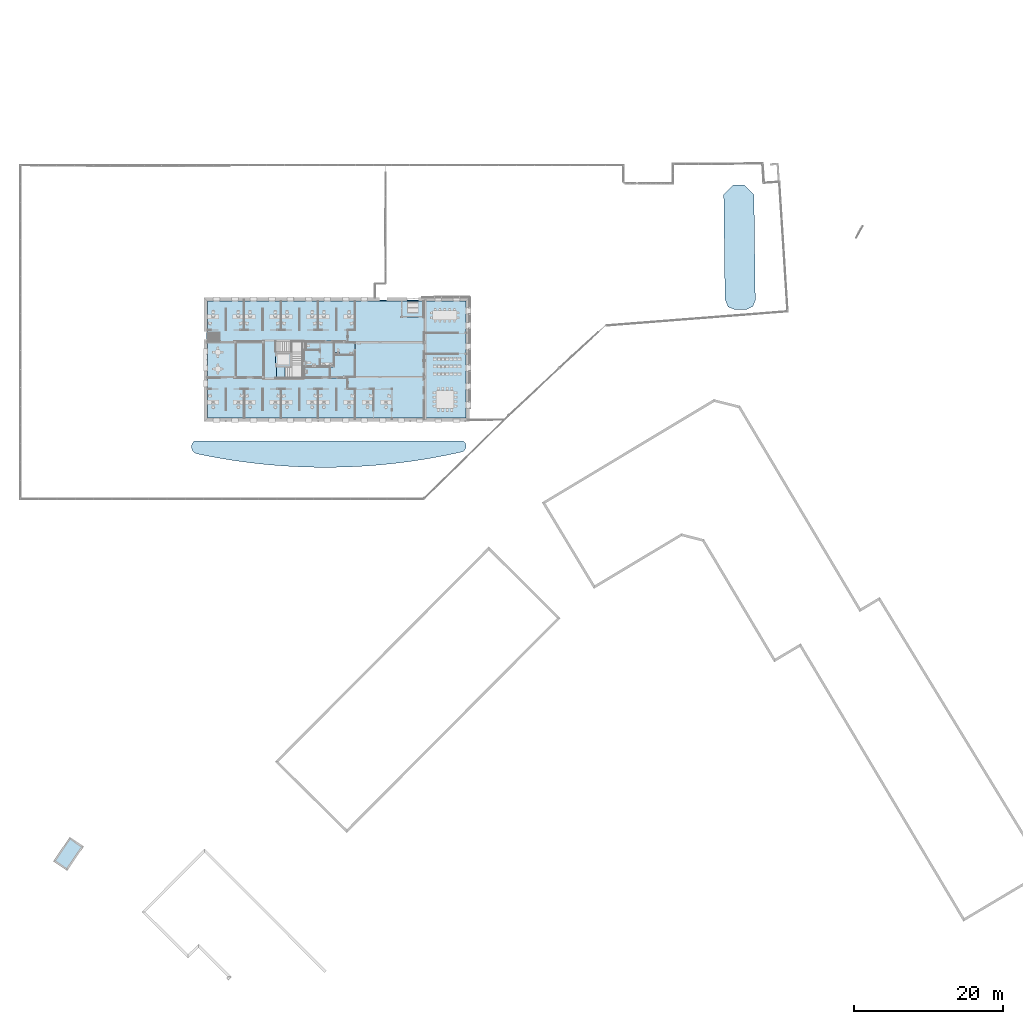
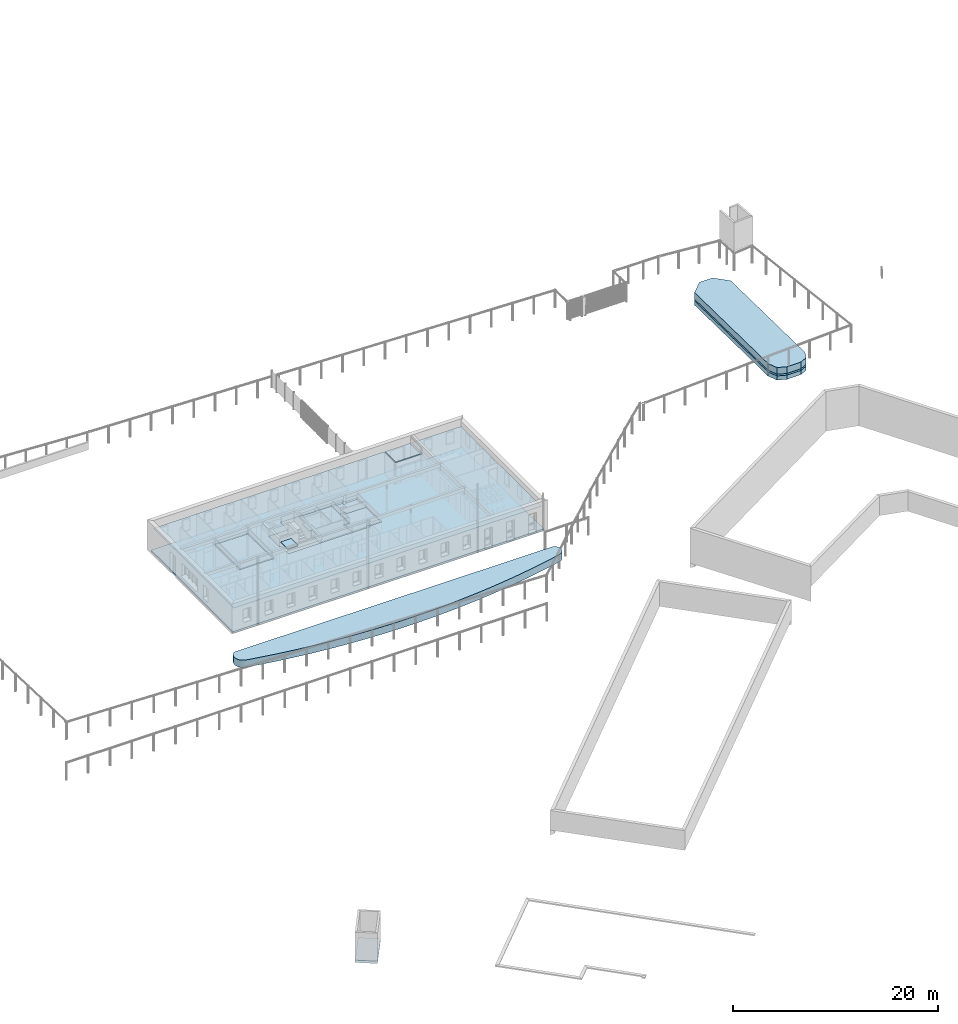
# One storey, part 10 of 91: 12 slabs.
"""IFC2X3 building model written with IfcOpenShell, lengths in metres."""

from ifc_helpers import new_model, entity, si_unit, converted_unit, derived_unit, money_unit, point, direction, frame, frame_2d, origin_with_axes, place, context, subcontext, project, spatial, polyline, circle_curve, parameter, trimmed, segment, composite_curve, outline, extrude, material, layer, layer_set, layer_usage, type_object, element, save


model = new_model("IFC2X3")

# Units and contexts
model_context = context("Model", 3, precision=1e-05, world=origin_with_axes(), true_north=direction((0.0, 1.0)))
body_context = subcontext(model_context, "Body", "Model", "MODEL_VIEW")
ifc_project = project(units=[si_unit("LENGTHUNIT", "METRE"), si_unit("AREAUNIT", "SQUARE_METRE"), si_unit("VOLUMEUNIT", "CUBIC_METRE"), converted_unit("PLANEANGLEUNIT", "DEGREE", entity("IfcPlaneAngleMeasure", 0.0174532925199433), si_unit("PLANEANGLEUNIT", "RADIAN"), dimensions=[0, 0, 0, 0, 0, 0, 0]), money_unit("EUR"), converted_unit("TIMEUNIT", "Year", entity("IfcTimeMeasure", 31557600.0), si_unit("TIMEUNIT", "SECOND"), dimensions=[0, 0, 1, 0, 0, 0, 0]), si_unit("MASSUNIT", "GRAM", prefix="KILO"), si_unit("THERMODYNAMICTEMPERATUREUNIT", "DEGREE_CELSIUS"), si_unit("LUMINOUSINTENSITYUNIT", "LUMEN"), si_unit("ENERGYUNIT", "JOULE", prefix="MEGA"), derived_unit("THERMALCONDUCTANCEUNIT", [(si_unit("POWERUNIT", "WATT"), 1), (si_unit("LENGTHUNIT", "METRE"), -1), (si_unit("THERMODYNAMICTEMPERATUREUNIT", "KELVIN"), -1)]), derived_unit("SPECIFICHEATCAPACITYUNIT", [(si_unit("ENERGYUNIT", "JOULE"), 1), (si_unit("MASSUNIT", "GRAM", prefix="KILO"), -1), (si_unit("THERMODYNAMICTEMPERATUREUNIT", "KELVIN"), -1)]), derived_unit("MASSDENSITYUNIT", [(si_unit("MASSUNIT", "GRAM", prefix="KILO"), 1), (si_unit("VOLUMEUNIT", "CUBIC_METRE"), -1)])], contexts=[model_context])

# Site, building, storey
site_placement = place(None, origin_with_axes())
site = spatial("IfcSite", under=ifc_project, at=site_placement, Name="Site", CompositionType="ELEMENT")
building_placement = place(site_placement, origin_with_axes())
building = spatial("IfcBuilding", under=site, at=building_placement, Name="Bâtiment", CompositionType="ELEMENT")
storey_placement = place(building_placement, origin_with_axes())
storey = spatial("IfcBuildingStorey", under=building, at=storey_placement, Name="RDC", CompositionType="ELEMENT", Elevation=0.0)

# Slabs
ifc_material_1 = material(Name="*FINITION SOL INT - sol souple")
ifc_layer_1 = layer(ifc_material_1, 0.02, ventilated="UNKNOWN")
ifc_material_2 = material(Name="*CHAPE")
ifc_layer_2 = layer(ifc_material_2, 0.07, ventilated="UNKNOWN")
ifc_material_3 = material(Name="*GENERIQUE - MAÇONNERIE")
ifc_layer_3 = layer(ifc_material_3, 0.2, ventilated="UNKNOWN")
ifc_layer_set_1 = layer_set([ifc_layer_1, ifc_layer_2, ifc_layer_3], Name="*Plancher béton+CHAPE+FINITION")
ifc_layer_usage_1 = layer_usage(ifc_layer_set_1, "AXIS3", "NEGATIVE", 0.29)
slab_type_1 = type_object("IfcSlabType", Name="*Plancher béton+CHAPE+FINITION  290", PredefinedType="FLOOR")
slab_1_placement = place(storey_placement, frame((6.584287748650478, -83.29723184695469, 4.0), z_axis=(0.0, 0.0, 1.0), x_axis=(1.0, 0.0, 0.0)))
element("IfcSlab", 1, at=slab_1_placement, inside=storey, type_object=slab_type_1, material=ifc_layer_usage_1, Name="DC_BA_Isol-004", PredefinedType="FLOOR", context=body_context, shape_type="SweptSolid", body=[
    extrude(outline(polyline([(0.0, 0.0), (-2.172516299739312, -3.200480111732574), (-0.3764334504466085, -4.445705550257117), (1.815676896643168, -1.241216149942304), (0.0, 0.0)])), frame((0.0, 0.0, -0.29), z_axis=(0.0, 0.0, 1.0), x_axis=(1.0, 0.0, 0.0)), (0.0, 0.0, 1.0), 0.29),
])
ifc_material_4 = material(Name="Eau")
ifc_layer_4 = layer(ifc_material_4, 0.2, ventilated="UNKNOWN")
ifc_layer_set_2 = layer_set([ifc_layer_4], Name="Eau 0.2")
ifc_layer_usage_2 = layer_usage(ifc_layer_set_2, "AXIS3", "NEGATIVE", 0.2)
slab_type_2 = type_object("IfcSlabType", Name="Eau 200", PredefinedType="FLOOR")
slab_2_placement = place(storey_placement, frame((94.43067526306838, 3.07974796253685, -3.0), z_axis=(0.0, 0.0, 1.0), x_axis=(1.0, 0.0, 0.0)))
element("IfcSlab", 2, at=slab_2_placement, inside=storey, type_object=slab_type_2, material=ifc_layer_usage_2, Name="Bassin rétention EP", PredefinedType="FLOOR", context=body_context, shape_type="SweptSolid", body=[
    extrude(outline(polyline([(0.0, 0.0), (0.1755316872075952, -14.08551363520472), (0.5900653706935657, -15.09830337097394), (1.512425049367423, -15.46710076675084), (2.31357609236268, -15.45450086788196), (3.113564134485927, -15.44191925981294), (3.907597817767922, -15.05073613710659), (4.250941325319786, -14.19407753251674), (4.06843709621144, -0.03220970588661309), (2.750865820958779, 1.29715435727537), (1.268939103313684, 1.274966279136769), (0.0, 0.0)])), frame((0.0, 0.0, -0.2), z_axis=(0.0, 0.0, 1.0), x_axis=(1.0, 0.0, 0.0)), (0.0, 0.0, 1.0), 0.2),
])
ifc_layer_5 = layer(ifc_material_4, 0.8700000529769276, ventilated="UNKNOWN")
ifc_layer_set_3 = layer_set([ifc_layer_5], Name="Eau 0.87")
ifc_layer_usage_3 = layer_usage(ifc_layer_set_3, "AXIS3", "NEGATIVE", 0.8700000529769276)
slab_type_3 = type_object("IfcSlabType", Name="Eau 870", PredefinedType="FLOOR")
slab_3_placement = place(storey_placement, frame((23.36706628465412, -30.01659920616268, -0.1299999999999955), z_axis=(0.0, 0.0, 1.0), x_axis=(1.0, 0.0, 0.0)))
element("IfcSlab", 3, at=slab_3_placement, inside=storey, type_object=slab_type_3, material=ifc_layer_usage_3, Name="Bassin rétention EP", PredefinedType="FLOOR", context=body_context, shape_type="SweptSolid", body=[
    extrude(outline(composite_curve([segment(trimmed(circle_curve(frame_2d((0.5444571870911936, -0.8059936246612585), x_axis=(-0.5597634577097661, 0.8286524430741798)), 0.972655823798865), [point((0.0, 0.0)), parameter(0.0)], [point((0.3330603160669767, -1.755399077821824)), parameter(133.4077216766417)], True, "CARTESIAN"), True, "CONTINUOUS"), segment(trimmed(circle_curve(frame_2d((17.52057260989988, 78.7059416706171), x_axis=(-0.2088991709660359, -0.9779371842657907)), 82.27659408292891), [point((0.3330603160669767, -1.755399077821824)), parameter(0.0)], [point((35.935300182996, -1.483432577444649)), parameter(24.99104839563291)], True, "CARTESIAN"), True, "CONTINUOUS"), segment(trimmed(circle_curve(frame_2d((35.63064256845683, -0.7217020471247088), x_axis=(0.3713543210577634, -0.9284912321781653)), 0.8203960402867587), [point((35.935300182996, -1.483432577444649)), parameter(0.0)], [point((36.05017150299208, -0.01668776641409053)), parameter(127.4454613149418)], True, "CARTESIAN"), True, "CONTINUOUS"), segment(polyline([(36.05017150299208, -0.01668776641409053), (0.0, 0.0)]), True, "CONTINUOUS")], self_intersect=False)), frame((0.0, 0.0, -0.8700000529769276), z_axis=(0.0, 0.0, 1.0), x_axis=(1.0, 0.0, 0.0)), (0.0, 0.0, 1.0), 0.8700000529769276),
])
ifc_material_5 = material(Name="*OSSATURE PLACO")
ifc_layer_6 = layer(ifc_material_5, 0.048, ventilated="UNKNOWN")
ifc_material_6 = material(Name="*PLAQUE DE PLATRE - PLAFOND")
ifc_layer_7 = layer(ifc_material_6, 0.013, ventilated="UNKNOWN")
ifc_layer_set_4 = layer_set([ifc_layer_6, ifc_layer_7], Name="*Plafond 1/2 STIL")
ifc_layer_usage_4 = layer_usage(ifc_layer_set_4, "AXIS3", "NEGATIVE", 0.061)
slab_type_4 = type_object("IfcSlabType", Name="*Plafond 1/2 STIL 61", PredefinedType="FLOOR")
slab_4_placement = place(storey_placement, frame((51.22542091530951, -11.25756213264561, 2.6), z_axis=(0.0, 0.0, 1.0), x_axis=(1.0, 0.0, 0.0)))
element("IfcSlab", 4, at=slab_4_placement, inside=storey, type_object=slab_type_4, material=ifc_layer_usage_4, Name="Plafond métallique acoustique perforé", PredefinedType="FLOOR", context=body_context, shape_type="SweptSolid", body=[
    extrude(outline(polyline([(0.0, 0.0), (0.0, -2.062999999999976), (2.801579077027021, -2.062999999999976), (2.801579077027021, 0.0), (0.0, 0.0)])), origin_with_axes(), (0.0, 0.0, 1.0), 0.061),
])
ifc_layer_usage_5 = layer_usage(ifc_layer_set_4, "AXIS3", "NEGATIVE", 0.061)
slab_5_placement = place(storey_placement, frame((38.32200801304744, -20.1286705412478, 2.6), z_axis=(0.0, 0.0, 1.0), x_axis=(1.0, 0.0, 0.0)))
element("IfcSlab", 5, at=slab_5_placement, inside=storey, type_object=slab_type_4, material=ifc_layer_usage_5, Name="Plafond acoustique démontable", PredefinedType="FLOOR", context=body_context, shape_type="SweptSolid", body=[
    extrude(outline(polyline([(0.0, 0.0), (-0.4090000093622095, 0.0), (-0.4090000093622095, -1.368859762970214), (3.160999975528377, -1.368859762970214), (3.160999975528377, 0.0999995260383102), (3.741000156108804, 0.0999995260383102), (3.741000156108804, 3.437105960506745), (0.0, 3.437105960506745), (0.0, 2.263108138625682), (-0.2740000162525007, 2.263108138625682), (-0.2740000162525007, 0.8431081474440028), (0.0, 0.8431081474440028), (0.0, 0.0)])), origin_with_axes(), (0.0, 0.0, 1.0), 0.061),
])
ifc_layer_usage_6 = layer_usage(ifc_layer_set_4, "AXIS3", "NEGATIVE", 0.061)
slab_6_placement = place(storey_placement, frame((34.33299999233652, -21.52356192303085, 3.120000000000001), z_axis=(0.0, 0.0, 1.0), x_axis=(1.0, 0.0, 0.0)))
element("IfcSlab", 6, at=slab_6_placement, inside=storey, type_object=slab_type_4, material=ifc_layer_usage_6, Name="Plafond acoustique démontable 1ère volée escalier", PredefinedType="FLOOR", context=body_context, shape_type="SweptSolid", body=[
    extrude(outline(polyline([(0.0, 0.0), (1.154007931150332, 0.0), (1.154007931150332, 1.395997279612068), (0.0, 1.395997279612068), (0.0, 0.0)])), origin_with_axes(), (0.0, 0.0, 1.0), 0.061),
])
ifc_layer_usage_7 = layer_usage(ifc_layer_set_4, "AXIS3", "NEGATIVE", 0.061)
slab_7_placement = place(storey_placement, frame((42.14300816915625, -16.69156729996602, 2.5), z_axis=(0.0, 0.0, 1.0), x_axis=(1.0, 0.0, 0.0)))
element("IfcSlab", 7, at=slab_7_placement, inside=storey, type_object=slab_type_4, material=ifc_layer_usage_7, Name="Plafond acoustique démontable WC public RDC", PredefinedType="FLOOR", context=body_context, shape_type="SweptSolid", body=[
    extrude(outline(polyline([(0.0, 0.0), (0.0, -1.477997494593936), (0.6665318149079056, -1.477997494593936), (0.6665318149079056, -1.751997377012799), (2.725991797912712, -1.751997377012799), (2.725991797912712, -0.1300000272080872), (1.40199178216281, -0.1300000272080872), (1.40199178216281, -0.1909972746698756), (1.151991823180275, -0.1909972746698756), (1.151991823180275, 0.0), (0.4565316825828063, 0.0), (0.0, 0.0)])), origin_with_axes(), (0.0, 0.0, 1.0), 0.061),
])
ifc_layer_usage_8 = layer_usage(ifc_layer_set_4, "AXIS3", "NEGATIVE", 0.061)
slab_8_placement = place(storey_placement, frame((25.09999999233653, -26.95756215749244, 2.6), z_axis=(0.0, 0.0, 1.0), x_axis=(1.0, 0.0, 0.0)))
element("IfcSlab", 8, at=slab_8_placement, inside=storey, type_object=slab_type_4, material=ifc_layer_usage_8, Name="Plafond acoustique démontable", PredefinedType="FLOOR", context=body_context, shape_type="SweptSolid", body=[
    extrude(outline(polyline([(0.0, 0.0), (34.70000000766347, 0.0), (34.70000000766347, 15.70000002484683), (29.087, 15.70000002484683), (29.087, 13.55700002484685), (26.04542092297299, 13.55700002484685), (26.04542092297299, 15.70000002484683), (0.0, 15.70000002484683), (0.0, 0.0)]), holes=[polyline([(3.750383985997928, 5.360000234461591), (3.750383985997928, 10.33999979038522), (3.850384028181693, 10.33999979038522), (7.51900801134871, 10.33999979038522), (7.593008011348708, 10.33999979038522), (7.593008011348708, 7.320000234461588), (7.593008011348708, 7.220000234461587), (7.593008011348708, 5.360014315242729), (7.593008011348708, 5.360000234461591), (3.850384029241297, 5.360000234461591), (3.750383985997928, 5.360000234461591)]), polyline([(9.23299999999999, 5.360000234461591), (9.23299999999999, 6.829997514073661), (9.093008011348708, 6.829997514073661), (9.093008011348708, 6.832997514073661), (9.093008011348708, 8.870000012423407), (11.23900801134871, 8.870000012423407), (11.23900801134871, 10.33999758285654), (13.0670080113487, 10.33999758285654), (16.85300795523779, 10.33999979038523), (18.45999728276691, 10.33999979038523), (18.45999728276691, 10.20999979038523), (19.843, 10.20999979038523), (19.843, 5.49000023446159), (18.47009866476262, 5.49000023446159), (18.47009866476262, 5.360000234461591), (13.0670080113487, 5.360000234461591), (9.23299999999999, 5.360000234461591)])]), origin_with_axes(), (0.0, 0.0, 1.0), 0.061),
])
ifc_layer_usage_9 = layer_usage(ifc_layer_set_4, "AXIS3", "NEGATIVE", 0.061)
slab_9_placement = place(storey_placement, frame((28.95038403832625, -16.69156236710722, 2.6), z_axis=(0.0, 0.0, 1.0), x_axis=(1.0, 0.0, 0.0)))
element("IfcSlab", 9, at=slab_9_placement, inside=storey, type_object=slab_type_4, material=ifc_layer_usage_9, Name="Plafond acoustique démontable", PredefinedType="FLOOR", context=body_context, shape_type="SweptSolid", body=[
    extrude(outline(polyline([(0.0, 0.0), (-6.881710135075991e-08, -4.805999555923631), (3.642623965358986, -4.805999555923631), (3.642623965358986, 0.0), (0.0, 0.0)])), origin_with_axes(), (0.0, 0.0, 1.0), 0.061),
])
ifc_layer_usage_10 = layer_usage(ifc_layer_set_4, "AXIS3", "NEGATIVE", 0.061)
slab_10_placement = place(storey_placement, frame((41.58700817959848, -20.114717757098, 2.6), z_axis=(0.0, 0.0, 1.0), x_axis=(1.0, 0.0, 0.0)))
element("IfcSlab", 10, at=slab_10_placement, inside=storey, type_object=slab_type_4, material=ifc_layer_usage_10, Name="Plafond acoustique démontable", PredefinedType="FLOOR", context=body_context, shape_type="SweptSolid", body=[
    extrude(outline(polyline([(0.0, 0.0), (0.0, -1.377777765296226), (1.707991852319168, -1.377777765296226), (1.707991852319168, -1.217846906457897), (1.957991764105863, -1.217846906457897), (1.957991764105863, -1.252844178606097), (3.281991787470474, -1.252844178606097), (3.281991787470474, 1.571158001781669), (0.5500014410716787, 1.571158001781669), (0.549999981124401, 0.01204672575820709), (0.0, 0.0)])), origin_with_axes(), (0.0, 0.0, 1.0), 0.061),
])
ifc_layer_8 = layer(ifc_material_1, 0.02, ventilated="UNKNOWN")
ifc_layer_9 = layer(ifc_material_3, 0.05, ventilated="UNKNOWN")
ifc_material_7 = material(Name="*GENERIQUE - ISOLATION PLANCHER")
ifc_layer_10 = layer(ifc_material_7, 0.15, ventilated="UNKNOWN")
ifc_layer_set_5 = layer_set([ifc_layer_8, ifc_layer_9, ifc_layer_10], Name="*Dalle portée hourdi isolé + finition")
ifc_layer_usage_11 = layer_usage(ifc_layer_set_5, "AXIS3", "NEGATIVE", 0.22)
slab_type_5 = type_object("IfcSlabType", Name="*Dalle portée hourdi isolé + finition 220", PredefinedType="FLOOR")
slab_11_placement = place(storey_placement, frame((59.97800023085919, -27.13556251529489, 0.0), z_axis=(0.0, 0.0, 1.0), x_axis=(1.0, 0.0, 0.0)))
element("IfcSlab", 11, at=slab_11_placement, inside=storey, type_object=slab_type_5, material=ifc_layer_usage_11, Name="DC_BA_Isol-005", PredefinedType="FLOOR", context=body_context, shape_type="SweptSolid", body=[
    extrude(outline(polyline([(0.0, 0.0), (0.0, 16.05600059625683), (-35.05600046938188, 16.05600059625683), (-35.05600046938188, 0.0), (0.0, 0.0)])), frame((0.0, 0.0, -0.22), z_axis=(0.0, 0.0, 1.0), x_axis=(1.0, 0.0, 0.0)), (0.0, 0.0, 1.0), 0.22),
])
ifc_layer_11 = layer(ifc_material_4, 1.5, ventilated="UNKNOWN")
ifc_layer_set_6 = layer_set([ifc_layer_11], Name="Eau 1.5")
ifc_layer_usage_12 = layer_usage(ifc_layer_set_6, "AXIS3", "NEGATIVE", 1.5)
slab_type_6 = type_object("IfcSlabType", Name="Eau 1500", PredefinedType="FLOOR")
slab_12_placement = place(storey_placement, frame((95.69961442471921, 4.354714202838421, -2.199999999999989), z_axis=(0.0, 0.0, 1.0), x_axis=(1.0, 0.0, 0.0)))
element("IfcSlab", 12, at=slab_12_placement, inside=storey, type_object=slab_type_6, material=ifc_layer_usage_12, Name="Bassin rétention EP", PredefinedType="FLOOR", context=body_context, shape_type="SweptSolid", body=[
    extrude(outline(polyline([(0.0, 0.0), (-1.26893916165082, -1.274966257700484), (-1.093407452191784, -15.36047982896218), (-0.67887379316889, -16.37326953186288), (0.2434859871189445, -16.74206700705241), (1.044636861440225, -16.72946698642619), (1.844624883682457, -16.71688545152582), (2.638658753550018, -16.32570226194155), (2.98200213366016, -15.46904374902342), (2.853083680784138, -5.46528961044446), (2.799498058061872, -1.307175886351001), (1.481926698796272, 0.02218811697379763), (0.0, 0.0)])), frame((0.0, 0.0, -1.5), z_axis=(0.0, 0.0, 1.0), x_axis=(1.0, 0.0, 0.0)), (0.0, 0.0, 1.0), 1.5),
])

save(model, "model.ifc")
